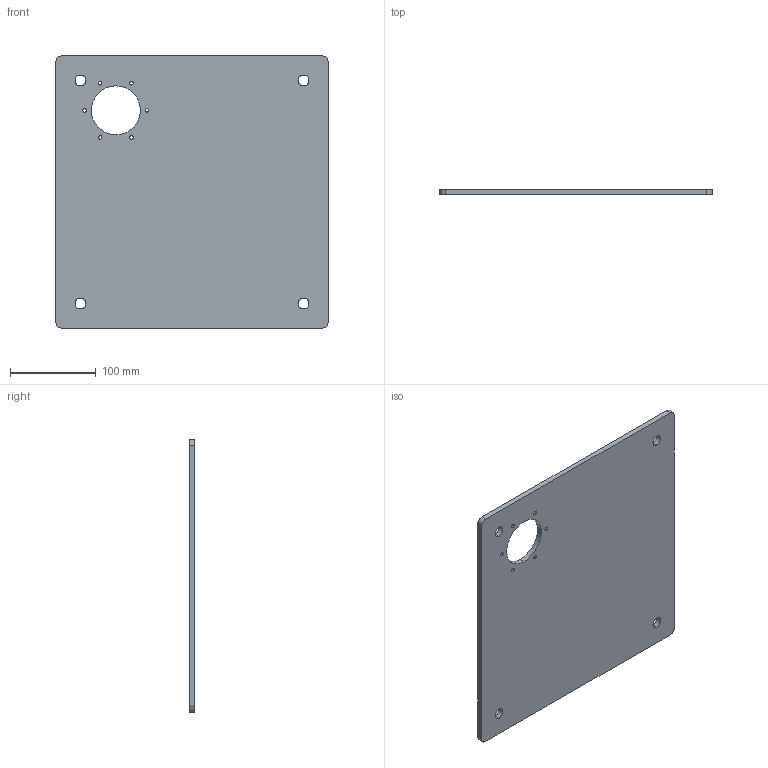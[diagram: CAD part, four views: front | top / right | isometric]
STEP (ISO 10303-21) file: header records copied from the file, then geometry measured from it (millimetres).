
FILE_DESCRIPTION (( 'STEP AP214' ), '1' );
FILE_NAME ('TVL-923.STEP', '2021-04-09T14:51:08', ( '' ), ( '' ), 'SwSTEP 2.0', 'SolidWorks 2013', '' );
FILE_SCHEMA (( 'AUTOMOTIVE_DESIGN' ));
Length unit declared in the file: inch
Products named in the file (1): TVL-923
Bounding box: 317.5 x 6.35 x 317.5 mm (x, y, z)
Volume: 619905.2 mm3; surface area: 205877.9 mm2
Topology: 1 solids, 1 shells, 32 faces, 90 edges, 60 vertices
Faces by surface type: cylinder 26, plane 6
Entity records: 1306 total; most frequent: DIRECTION 208, CARTESIAN_POINT 183, ORIENTED_EDGE 180, EDGE_CURVE 90, AXIS2_PLACEMENT_3D 85, VERTEX_POINT 60, EDGE_LOOP 54, CIRCLE 52
